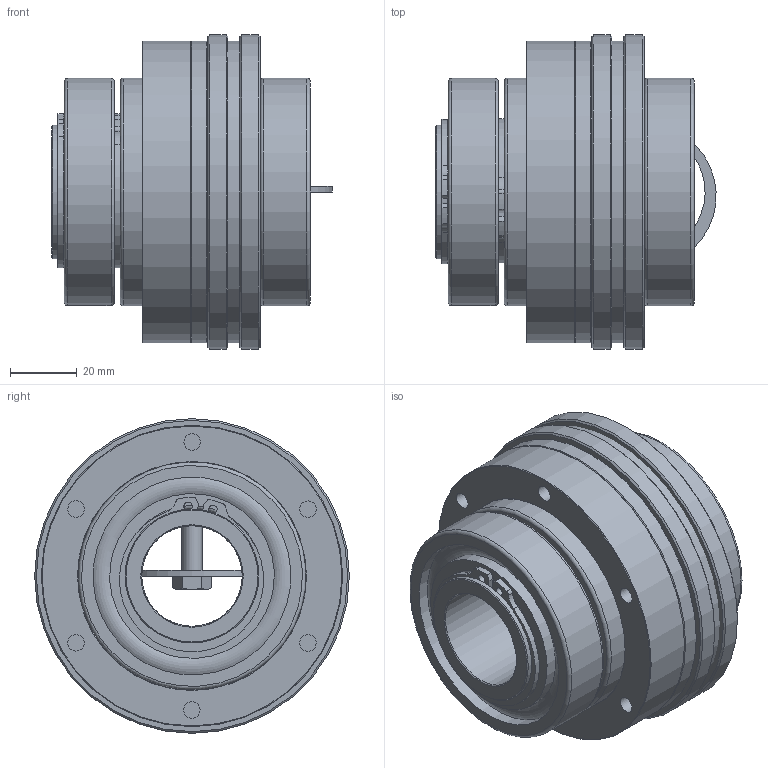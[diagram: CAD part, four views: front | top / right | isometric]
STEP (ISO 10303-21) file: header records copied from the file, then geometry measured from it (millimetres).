
FILE_DESCRIPTION( ( 'Unknown' ), '1' );
FILE_NAME( 'C:/Dokumente und Einstellungen/Sven/Desktop/hp kbk/KBK LL-I-150.stp', 'Unknown', ( 'Unknown' ), ( 'Unknown' ), 'XStep 1.0', 'Unknown', ' ' );
FILE_SCHEMA( ( 'automotive_design' ) );
Length unit declared in the file: millimetre
Products named in the file (12): Assem1; Assem2; ball_bearing_-_6008_0_01; ball_bearing_-_6008_0_02; ball_bearing_-_6008_0_03; Konusbuchse 80; Stellring 80; Druckring 80; a_40; din_en_24017_m6x25; KBK LL-I-80 Grundkörper; Flansch 80
Bounding box: 83.68 x 94 x 94 mm (x, y, z)
Volume: 474013.4 mm3; surface area: 231577.7 mm2
Topology: 32 solids, 32 shells, 546 faces, 1160 edges, 741 vertices
Faces by surface type: plane 217, cylinder 168, cone 122, torus 39
Full cylindrical faces by diameter (mm): 2.5 x6, 3.242 x6, 4.917 x30, 5 x8, 5.2 x6, 6 x7, 6.6 x12, 8.8 x7, 30 x4, 37.5 x4, 40 x10, 41 x2, 49.2 x8, 59.1 x8, 59.5 x2, 61 x2, 62 x4, 68 x6, 70 x2, 85 x2, 87 x2, 90 x4, 94 x2
Entity records: 5493 total; most frequent: CARTESIAN_POINT 1156, DIRECTION 874, ORIENTED_EDGE 566, AXIS2_PLACEMENT_3D 405, EDGE_LOOP 360, EDGE_CURVE 283, FACE_OUTER_BOUND 261, VERTEX_POINT 235
